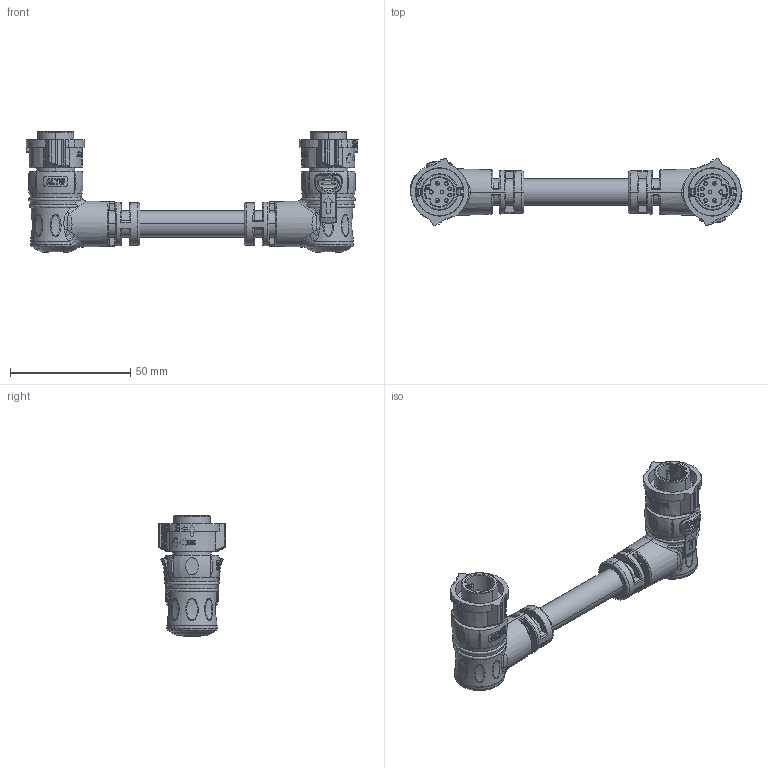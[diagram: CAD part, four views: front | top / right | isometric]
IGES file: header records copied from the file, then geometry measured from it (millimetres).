
Start section:  PTC IGES file: AB-CBDXXBR-CBDBR-QFXXX.igs
Global section: file name: AB-CBDXXBR-CBDBR-QFXXX.igs; native system: Creo Parametric by Parametric Technology Corporation; preprocessor: 2017170; author: L050004; organization: Unknown; date: 20200207.164215; units: millimetre
Bounding box: 137.8 x 28 x 50.04 mm (x, y, z)
Volume: 46732.4 mm3; surface area: 21104.9 mm2
Topology: 1 solids, 1 shells, 2391 faces, 6584 edges, 4275 vertices
Faces by surface type: bspline 1204, revolution 739, extrusion 448
